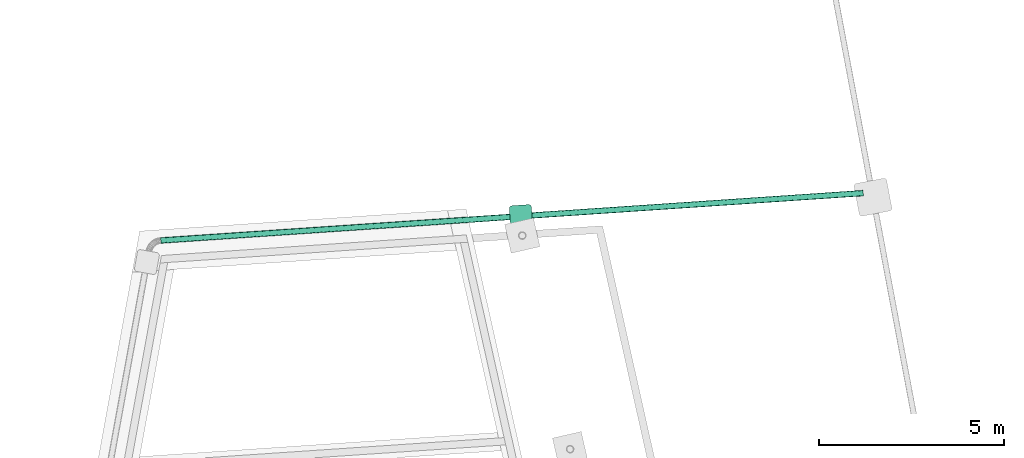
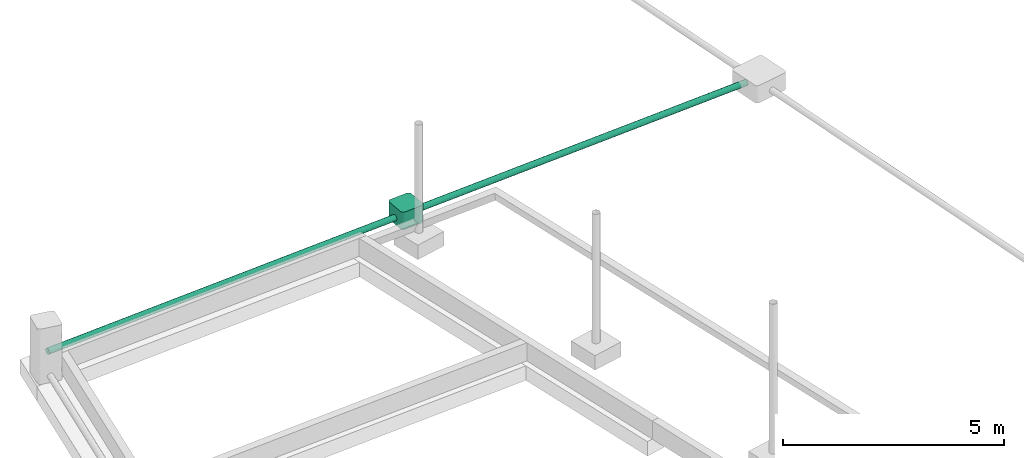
# One storey, part 12 of 17: 2 flow segments, 1 flow controller.
"""IFC2X3 building model written with IfcOpenShell, lengths in centimetres."""

from ifc_helpers import new_model, entity, si_unit, converted_unit, derived_unit, direction, frame, origin, origin_2d_with_axis, place, context, subcontext, project, spatial, circle, extrude, faceted_brep, source, transform, mapped, material, type_object, type_shapes, element, save


model = new_model("IFC2X3")

# Units and contexts
model_context = context("Model", 3, precision=0.001, world=origin(), true_north=direction((6.12303176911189e-17, 1.0)))
body_context = subcontext(model_context, "Body", "Model", "MODEL_VIEW")
ifc_project = project(units=[si_unit("LENGTHUNIT", "METRE", prefix="CENTI"), si_unit("AREAUNIT", "SQUARE_METRE"), si_unit("VOLUMEUNIT", "CUBIC_METRE"), converted_unit("PLANEANGLEUNIT", "DEGREE", entity("IfcRatioMeasure", 0.0174532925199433), si_unit("PLANEANGLEUNIT", "RADIAN"), dimensions=[0, 0, 0, 0, 0, 0, 0]), si_unit("MASSUNIT", "GRAM", prefix="KILO"), derived_unit("MASSDENSITYUNIT", [(si_unit("MASSUNIT", "GRAM", prefix="KILO"), 1), (si_unit("LENGTHUNIT", "METRE"), -3)]), si_unit("TIMEUNIT", "SECOND"), si_unit("FREQUENCYUNIT", "HERTZ"), si_unit("THERMODYNAMICTEMPERATUREUNIT", "DEGREE_CELSIUS"), derived_unit("THERMALTRANSMITTANCEUNIT", [(si_unit("MASSUNIT", "GRAM", prefix="KILO"), 1), (si_unit("THERMODYNAMICTEMPERATUREUNIT", "KELVIN"), -1), (si_unit("TIMEUNIT", "SECOND"), -3)]), derived_unit("VOLUMETRICFLOWRATEUNIT", [(si_unit("LENGTHUNIT", "METRE"), 3), (si_unit("TIMEUNIT", "SECOND"), -1)]), si_unit("ELECTRICCURRENTUNIT", "AMPERE"), si_unit("ELECTRICVOLTAGEUNIT", "VOLT"), si_unit("POWERUNIT", "WATT"), si_unit("FORCEUNIT", "NEWTON", prefix="KILO"), si_unit("ILLUMINANCEUNIT", "LUX"), si_unit("LUMINOUSFLUXUNIT", "LUMEN"), si_unit("LUMINOUSINTENSITYUNIT", "CANDELA"), derived_unit("USERDEFINED", [(si_unit("MASSUNIT", "GRAM", prefix="KILO"), -1), (si_unit("LENGTHUNIT", "METRE"), -2), (si_unit("TIMEUNIT", "SECOND"), 3), (si_unit("LUMINOUSFLUXUNIT", "LUMEN"), 1)]), derived_unit("LINEARVELOCITYUNIT", [(si_unit("LENGTHUNIT", "METRE"), 1), (si_unit("TIMEUNIT", "SECOND"), -1)]), si_unit("PRESSUREUNIT", "PASCAL"), derived_unit("USERDEFINED", [(si_unit("LENGTHUNIT", "METRE"), -2), (si_unit("MASSUNIT", "GRAM", prefix="KILO"), 1), (si_unit("TIMEUNIT", "SECOND"), -2)])], contexts=[model_context])

# Site, building, storey
site_placement = place(None, frame((2611.71187422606, 13650.4058644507, 0.0), z_axis=(0.0, 0.0, 1.0), x_axis=(0.0673222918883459, -0.997731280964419, 0.0)))
site = spatial("IfcSite", under=ifc_project, at=site_placement, Name="Surface", CompositionType="ELEMENT")
building_placement = place(site_placement, origin())
building = spatial("IfcBuilding", under=site, at=building_placement, CompositionType="ELEMENT")
storey_placement = place(building_placement, frame((0.0, 0.0, 86950.0)))
storey = spatial("IfcBuildingStorey", under=building, at=storey_placement, Name="-1 Soubassement", CompositionType="ELEMENT", Elevation=86950.0)

# Flow controller
ifc_material = material(Name="Béton, précoulé")
valve_type = type_object("IfcValveType", Name="Regard EP 600x600", PredefinedType="NOTDEFINED", material=ifc_material)
shared_shape = source(origin(), body_context, "Body", "Brep", [
    faceted_brep([(56.1595272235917, 59.0877304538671, 48.0), (54.2300795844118, 59.8869338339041, 48.0), (52.1595272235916, 60.1595272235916, 48.0), (8.15952722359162, 60.1595272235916, 48.0), (6.08897486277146, 59.8869338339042, 48.0), (4.15952722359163, 59.0877304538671, 48.0), (2.50267297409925, 57.816381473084, 48.0), (1.23132399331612, 56.1595272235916, 48.0), (0.432120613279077, 54.2300795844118, 48.0), (0.159527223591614, 52.1595272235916, 48.0), (0.1595272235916, 8.15952722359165, 48.0), (0.432120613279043, 6.08897486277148, 48.0), (1.23132399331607, 4.15952722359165, 48.0), (2.50267297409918, 2.50267297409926, 48.0), (4.15952722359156, 1.23132399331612, 48.0), (6.08897486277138, 0.43212061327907, 48.0), (8.15952722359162, 0.159527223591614, 48.0), (52.1595272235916, 0.159527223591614, 48.0), (54.2300795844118, 0.43212061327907, 48.0), (56.1595272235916, 1.2313239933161, 48.0), (57.816381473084, 2.50267297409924, 48.0), (59.0877304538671, 4.15952722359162, 48.0), (59.8869338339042, 6.08897486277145, 48.0), (60.1595272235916, 8.15952722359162, 48.0), (60.1595272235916, 52.1595272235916, 48.0), (59.8869338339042, 54.2300795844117, 48.0), (59.0877304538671, 56.1595272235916, 48.0), (57.816381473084, 57.816381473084, 48.0), (2.50267297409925, 57.816381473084, 43.0), (4.15952722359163, 59.0877304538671, 43.0), (6.08897486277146, 59.8869338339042, 43.0), (8.15952722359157, 60.1595272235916, 43.0), (52.1595272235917, 60.1595272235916, 43.0), (54.2300795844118, 59.8869338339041, 43.0), (56.1595272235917, 59.0877304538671, 43.0), (57.816381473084, 57.816381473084, 43.0), (59.0877304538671, 56.1595272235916, 43.0), (59.8869338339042, 54.2300795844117, 43.0), (60.1595272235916, 52.1595272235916, 43.0), (60.1595272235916, 8.15952722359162, 43.0), (59.8869338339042, 6.08897486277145, 43.0), (59.0877304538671, 4.15952722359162, 43.0), (57.816381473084, 2.50267297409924, 43.0), (56.1595272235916, 1.2313239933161, 43.0), (54.2300795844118, 0.43212061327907, 43.0), (52.1595272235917, 0.159527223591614, 43.0), (8.15952722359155, 0.1595272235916, 43.0), (6.08897486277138, 0.43212061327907, 43.0), (4.15952722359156, 1.23132399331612, 43.0), (2.50267297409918, 2.50267297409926, 43.0), (1.23132399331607, 4.15952722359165, 43.0), (0.432120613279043, 6.08897486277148, 43.0), (0.1595272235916, 8.1595272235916, 43.0), (0.159527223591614, 52.1595272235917, 43.0), (0.432120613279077, 54.2300795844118, 43.0), (1.23132399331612, 56.1595272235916, 43.0)], [[[0, 1, 2, 3, 4, 5, 6, 7, 8, 9, 10, 11, 12, 13, 14, 15, 16, 17, 18, 19, 20, 21, 22, 23, 24, 25, 26, 27]], [[28, 29, 30, 31, 32, 33, 34, 35, 36, 37, 38, 39, 40, 41, 42, 43, 44, 45, 46, 47, 48, 49, 50, 51, 52, 53, 54, 55]], [[3, 2, 32, 31]], [[4, 3, 31, 30]], [[5, 4, 30, 29]], [[6, 5, 29, 28]], [[54, 53, 9, 8]], [[7, 6, 28, 55]], [[55, 54, 8, 7]], [[10, 9, 53, 52]], [[11, 10, 52, 51]], [[12, 11, 51, 50]], [[13, 12, 50, 49]], [[47, 46, 16, 15]], [[14, 48, 47, 15]], [[48, 14, 13, 49]], [[17, 16, 46, 45]], [[18, 17, 45, 44]], [[19, 18, 44, 43]], [[20, 19, 43, 42]], [[42, 41, 21, 20]], [[21, 41, 40, 22]], [[23, 22, 40, 39]], [[24, 23, 39, 38]], [[25, 24, 38, 37]], [[26, 25, 37, 36]], [[27, 26, 36, 35]], [[0, 27, 35, 34]], [[0, 34, 33, 1]], [[33, 32, 2, 1]]]),
    faceted_brep([(6.08897486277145, 59.8869338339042, 0.0), (8.15952722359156, 60.1595272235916, 0.0), (52.1595272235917, 60.1595272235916, 0.0), (54.2300795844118, 59.8869338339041, 0.0), (56.1595272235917, 59.0877304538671, 0.0), (57.816381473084, 57.816381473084, 0.0), (59.0877304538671, 56.1595272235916, 0.0), (59.8869338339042, 54.2300795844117, 0.0), (60.1595272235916, 52.1595272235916, 0.0), (60.1595272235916, 8.15952722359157, 0.0), (59.8869338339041, 6.0889748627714, 0.0), (59.0877304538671, 4.15952722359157, 0.0), (57.816381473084, 2.5026729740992, 0.0), (56.1595272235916, 1.23132399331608, 0.0), (54.2300795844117, 0.432120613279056, 0.0), (52.1595272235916, 0.159527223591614, 0.0), (8.15952722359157, 0.159527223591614, 0.0), (6.0889748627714, 0.432120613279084, 0.0), (4.15952722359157, 1.23132399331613, 0.0), (2.5026729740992, 2.50267297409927, 0.0), (1.23132399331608, 4.15952722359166, 0.0), (0.432120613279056, 6.08897486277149, 0.0), (0.159527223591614, 8.15952722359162, 0.0), (0.159527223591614, 52.1595272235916, 0.0), (0.43212061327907, 54.2300795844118, 0.0), (1.23132399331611, 56.1595272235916, 0.0), (2.50267297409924, 57.816381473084, 0.0), (4.15952722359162, 59.0877304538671, 0.0), (52.1595272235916, 60.1595272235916, 5.0), (8.15952722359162, 60.1595272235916, 5.0), (6.08897486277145, 59.8869338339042, 5.0), (4.15952722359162, 59.0877304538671, 5.0), (2.50267297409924, 57.816381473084, 5.0), (1.23132399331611, 56.1595272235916, 5.0), (0.43212061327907, 54.2300795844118, 5.0), (0.159527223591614, 52.1595272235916, 5.0), (0.159527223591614, 8.15952722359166, 5.0), (0.432120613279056, 6.08897486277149, 5.0), (1.23132399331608, 4.15952722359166, 5.0), (2.5026729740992, 2.50267297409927, 5.0), (4.15952722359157, 1.23132399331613, 5.0), (6.0889748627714, 0.432120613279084, 5.0), (8.15952722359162, 0.159527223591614, 5.0), (52.1595272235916, 0.159527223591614, 5.0), (54.2300795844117, 0.432120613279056, 5.0), (56.1595272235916, 1.23132399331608, 5.0), (57.816381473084, 2.5026729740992, 5.0), (59.0877304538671, 4.15952722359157, 5.0), (59.8869338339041, 6.0889748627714, 5.0), (60.1595272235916, 8.15952722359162, 5.0), (60.1595272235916, 52.1595272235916, 5.0), (59.8869338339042, 54.2300795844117, 5.0), (59.0877304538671, 56.1595272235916, 5.0), (57.816381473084, 57.816381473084, 5.0), (56.1595272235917, 59.0877304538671, 5.0), (54.2300795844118, 59.8869338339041, 5.0)], [[[0, 1, 2, 3, 4, 5, 6, 7, 8, 9, 10, 11, 12, 13, 14, 15, 16, 17, 18, 19, 20, 21, 22, 23, 24, 25, 26, 27]], [[28, 29, 30, 31, 32, 33, 34, 35, 36, 37, 38, 39, 40, 41, 42, 43, 44, 45, 46, 47, 48, 49, 50, 51, 52, 53, 54, 55]], [[29, 28, 2, 1]], [[36, 35, 23, 22]], [[43, 42, 16, 15]], [[50, 49, 9, 8]], [[30, 29, 1, 0]], [[31, 30, 0, 27]], [[32, 31, 27, 26]], [[24, 23, 35, 34]], [[33, 32, 26, 25]], [[25, 24, 34, 33]], [[37, 36, 22, 21]], [[38, 37, 21, 20]], [[39, 38, 20, 19]], [[17, 16, 42, 41]], [[40, 18, 17, 41]], [[18, 40, 39, 19]], [[44, 43, 15, 14]], [[45, 44, 14, 13]], [[46, 45, 13, 12]], [[12, 11, 47, 46]], [[47, 11, 10, 48]], [[49, 48, 10, 9]], [[51, 50, 8, 7]], [[52, 51, 7, 6]], [[53, 52, 6, 5]], [[54, 53, 5, 4]], [[54, 4, 3, 55]], [[3, 2, 28, 55]]]),
    faceted_brep([(56.1595272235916, 1.23132399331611, 43.0), (53.6595272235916, 5.56145101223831, 43.0), (54.2300795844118, 0.432120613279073, 43.0), (54.2808475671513, 6.03820688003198, 43.0), (57.816381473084, 2.50267297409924, 43.0), (59.0877304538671, 4.15952722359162, 43.0), (54.7576034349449, 6.65952722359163, 43.0), (59.8869338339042, 6.08897486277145, 43.0), (55.0573047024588, 7.38307008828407, 43.0), (60.1595272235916, 8.15952722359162, 43.0), (55.1595272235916, 8.15952722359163, 43.0), (55.1595272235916, 52.1595272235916, 43.0), (60.1595272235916, 52.1595272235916, 43.0), (55.0573047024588, 52.9359843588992, 43.0), (59.8869338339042, 54.2300795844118, 43.0), (54.7576034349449, 53.6595272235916, 43.0), (59.0877304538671, 56.1595272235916, 43.0), (54.2808475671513, 54.2808475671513, 43.0), (57.816381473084, 57.816381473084, 43.0), (56.1595272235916, 59.0877304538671, 43.0), (53.6595272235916, 54.7576034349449, 43.0), (54.2300795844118, 59.8869338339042, 43.0), (52.9359843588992, 55.0573047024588, 43.0), (52.1595272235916, 60.1595272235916, 43.0), (52.1595272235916, 55.1595272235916, 43.0), (8.15952722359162, 55.1595272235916, 43.0), (8.15952722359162, 60.1595272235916, 43.0), (7.38307008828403, 55.0573047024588, 43.0), (6.08897486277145, 59.8869338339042, 43.0), (6.6595272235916, 54.7576034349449, 43.0), (4.15952722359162, 59.0877304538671, 43.0), (6.03820688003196, 54.2808475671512, 43.0), (2.50267297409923, 57.816381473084, 43.0), (1.2313239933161, 56.1595272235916, 43.0), (5.56145101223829, 53.6595272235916, 43.0), (0.43212061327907, 54.2300795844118, 43.0), (5.26174974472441, 52.9359843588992, 43.0), (0.159527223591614, 52.1595272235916, 43.0), (5.15952722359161, 52.1595272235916, 43.0), (0.159527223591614, 8.15952722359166, 43.0), (5.15952722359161, 8.1595272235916, 43.0), (5.26174974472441, 7.38307008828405, 43.0), (0.432120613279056, 6.08897486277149, 43.0), (5.5614510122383, 6.65952722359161, 43.0), (1.23132399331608, 4.15952722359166, 43.0), (6.03820688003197, 6.03820688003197, 43.0), (2.5026729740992, 2.50267297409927, 43.0), (4.15952722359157, 1.23132399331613, 43.0), (6.65952722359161, 5.56145101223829, 43.0), (6.0889748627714, 0.43212061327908, 43.0), (7.38307008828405, 5.26174974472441, 43.0), (8.15952722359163, 0.15952722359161, 43.0), (8.15952722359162, 5.15952722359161, 43.0), (52.1595272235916, 0.15952722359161, 43.0), (52.9359843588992, 5.26174974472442, 43.0), (52.1595272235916, 5.15952722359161, 43.0), (56.1595272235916, 59.0877304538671, 5.0), (53.6595272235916, 54.7576034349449, 5.0), (54.2300795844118, 59.8869338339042, 5.0), (54.2808475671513, 54.2808475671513, 5.0), (57.816381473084, 57.816381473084, 5.0), (59.0877304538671, 56.1595272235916, 5.0), (54.7576034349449, 53.6595272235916, 5.0), (59.8869338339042, 54.2300795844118, 5.0), (55.0573047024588, 52.9359843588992, 5.0), (60.1595272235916, 52.1595272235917, 5.0), (55.1595272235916, 52.1595272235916, 5.0), (55.1595272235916, 8.15952722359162, 5.0), (60.1595272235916, 8.15952722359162, 5.0), (55.0573047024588, 7.38307008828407, 5.0), (59.8869338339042, 6.08897486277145, 5.0), (54.7576034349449, 6.65952722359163, 5.0), (59.0877304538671, 4.15952722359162, 5.0), (54.2808475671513, 6.03820688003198, 5.0), (57.816381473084, 2.50267297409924, 5.0), (56.1595272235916, 1.23132399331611, 5.0), (53.6595272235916, 5.56145101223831, 5.0), (54.2300795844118, 0.432120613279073, 5.0), (52.9359843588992, 5.26174974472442, 5.0), (52.1595272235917, 0.15952722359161, 5.0), (52.1595272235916, 5.15952722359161, 5.0), (8.1595272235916, 5.15952722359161, 5.0), (8.15952722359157, 0.15952722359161, 5.0), (7.38307008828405, 5.26174974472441, 5.0), (6.0889748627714, 0.43212061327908, 5.0), (6.65952722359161, 5.56145101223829, 5.0), (4.15952722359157, 1.23132399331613, 5.0), (6.03820688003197, 6.03820688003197, 5.0), (2.5026729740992, 2.50267297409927, 5.0), (1.23132399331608, 4.15952722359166, 5.0), (5.5614510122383, 6.65952722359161, 5.0), (0.432120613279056, 6.08897486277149, 5.0), (5.26174974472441, 7.38307008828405, 5.0), (0.159527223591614, 8.15952722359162, 5.0), (5.15952722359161, 8.15952722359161, 5.0), (0.159527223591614, 52.1595272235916, 5.0), (5.15952722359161, 52.1595272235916, 5.0), (5.26174974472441, 52.9359843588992, 5.0), (0.43212061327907, 54.2300795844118, 5.0), (5.56145101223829, 53.6595272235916, 5.0), (1.2313239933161, 56.1595272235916, 5.0), (6.03820688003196, 54.2808475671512, 5.0), (2.50267297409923, 57.816381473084, 5.0), (4.15952722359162, 59.0877304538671, 5.0), (6.6595272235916, 54.7576034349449, 5.0), (6.08897486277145, 59.8869338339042, 5.0), (7.38307008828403, 55.0573047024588, 5.0), (8.15952722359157, 60.1595272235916, 5.0), (8.1595272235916, 55.1595272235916, 5.0), (52.1595272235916, 60.1595272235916, 5.0), (52.9359843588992, 55.0573047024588, 5.0), (52.1595272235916, 55.1595272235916, 5.0), (34.1595272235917, 60.1595272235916, 24.9282032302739), (32.2300795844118, 60.1595272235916, 25.7274066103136), (35.8163814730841, 60.1595272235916, 23.6568542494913), (30.1595272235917, 60.1595272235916, 26.0), (37.0877304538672, 60.1595272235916, 22.0), (37.8869338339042, 60.1595272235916, 20.0705523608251), (38.1595272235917, 60.1595272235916, 18.0), (37.8869338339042, 60.1595272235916, 15.9294476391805), (37.0877304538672, 60.1595272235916, 14.0), (35.8163814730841, 60.1595272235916, 12.3431457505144), (34.1595272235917, 60.1595272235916, 11.0717967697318), (32.2300795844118, 60.1595272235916, 10.2725933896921), (30.1595272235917, 60.1595272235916, 10.0), (22.4321206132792, 60.1595272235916, 20.0705523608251), (28.0889748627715, 60.1595272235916, 10.2725933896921), (26.1595272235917, 60.1595272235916, 11.0717967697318), (24.5026729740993, 60.1595272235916, 12.3431457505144), (23.2313239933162, 60.1595272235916, 14.0), (22.4321206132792, 60.1595272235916, 15.9294476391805), (22.1595272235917, 60.1595272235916, 18.0), (23.2313239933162, 60.1595272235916, 22.0), (28.0889748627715, 60.1595272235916, 25.7274066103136), (26.1595272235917, 60.1595272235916, 24.9282032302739), (24.5026729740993, 60.1595272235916, 23.6568542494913), (26.15952722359, 0.15952722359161, 24.9282032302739), (28.0889748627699, 0.15952722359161, 25.7274066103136), (24.5026729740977, 0.15952722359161, 23.6568542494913), (30.15952722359, 0.15952722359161, 26.0), (23.2313239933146, 0.15952722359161, 22.0), (22.4321206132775, 0.15952722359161, 20.0705523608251), (22.1595272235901, 0.15952722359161, 18.0), (22.4321206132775, 0.15952722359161, 15.9294476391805), (23.2313239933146, 0.15952722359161, 14.0), (24.5026729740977, 0.15952722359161, 12.3431457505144), (26.1595272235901, 0.15952722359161, 11.0717967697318), (28.0889748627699, 0.15952722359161, 10.2725933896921), (30.1595272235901, 0.15952722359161, 10.0), (37.8869338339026, 0.15952722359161, 20.0705523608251), (32.2300795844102, 0.15952722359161, 10.2725933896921), (34.1595272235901, 0.15952722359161, 11.0717967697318), (35.8163814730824, 0.15952722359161, 12.3431457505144), (37.0877304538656, 0.15952722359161, 14.0), (37.8869338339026, 0.15952722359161, 15.9294476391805), (38.1595272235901, 0.15952722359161, 18.0), (37.0877304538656, 0.15952722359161, 22.0), (32.2300795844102, 0.15952722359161, 25.7274066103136), (34.15952722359, 0.15952722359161, 24.9282032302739), (35.8163814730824, 0.15952722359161, 23.6568542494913), (22.1595272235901, 5.15952722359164, 18.0), (22.4321206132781, 5.15952722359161, 15.9294476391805), (22.1595272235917, 55.1595272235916, 18.0), (22.4321206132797, 55.1595272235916, 15.9294476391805), (23.2313239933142, 5.15952722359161, 14.0), (23.2313239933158, 55.1595272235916, 14.0), (26.1595272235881, 5.15952722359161, 11.0717967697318), (24.5026729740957, 5.15952722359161, 12.3431457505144), (24.5026729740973, 55.1595272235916, 12.3431457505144), (26.1595272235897, 55.1595272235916, 11.0717967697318), (28.0889748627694, 5.15952722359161, 10.2725933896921), (28.088974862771, 55.1595272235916, 10.2725933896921), (30.15952722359, 5.15952722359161, 10.0), (30.1595272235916, 55.1595272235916, 10.0), (32.2300795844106, 5.15952722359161, 10.2725933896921), (32.2300795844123, 55.1595272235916, 10.2725933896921), (37.8869338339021, 5.15952722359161, 15.9294476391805), (37.087730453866, 5.15952722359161, 14.0), (37.0877304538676, 55.1595272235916, 14.0), (37.8869338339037, 55.1595272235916, 15.9294476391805), (35.8163814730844, 5.15952722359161, 12.3431457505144), (35.816381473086, 55.1595272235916, 12.3431457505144), (38.1595272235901, 5.15952722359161, 18.0), (38.1595272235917, 55.1595272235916, 18.0), (34.1595272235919, 5.15952722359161, 11.0717967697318), (34.1595272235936, 55.1595272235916, 11.0717967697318), (37.8869338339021, 5.15952722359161, 20.0705523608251), (37.8869338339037, 55.1595272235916, 20.0705523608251), (37.087730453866, 5.15952722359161, 22.0), (37.0877304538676, 55.1595272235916, 22.0), (34.159527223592, 5.15952722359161, 24.9282032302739), (35.8163814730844, 5.15952722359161, 23.6568542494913), (35.816381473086, 55.1595272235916, 23.6568542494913), (34.1595272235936, 55.1595272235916, 24.9282032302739), (32.2300795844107, 5.15952722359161, 25.7274066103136), (32.2300795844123, 55.1595272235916, 25.7274066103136), (30.15952722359, 5.15952722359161, 26.0), (30.1595272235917, 55.1595272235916, 26.0), (26.1595272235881, 5.15952722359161, 24.9282032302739), (24.5026729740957, 5.15952722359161, 23.6568542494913), (26.1595272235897, 55.1595272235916, 24.9282032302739), (24.5026729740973, 55.1595272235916, 23.6568542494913), (22.4321206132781, 5.15952722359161, 20.0705523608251), (23.2313239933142, 5.15952722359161, 22.0), (23.2313239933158, 55.1595272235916, 22.0), (22.4321206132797, 55.1595272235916, 20.0705523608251), (28.0889748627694, 5.15952722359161, 25.7274066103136), (28.088974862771, 55.1595272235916, 25.7274066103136), (8.15952722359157, 55.1595272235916, 23.8751470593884), (52.1595272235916, 55.1595272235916, 24.1248529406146), (53.3075775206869, 54.9311658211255, 24.0), (52.7444457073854, 55.1019531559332, 21.2463431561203), (54.9311658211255, 53.3075775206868, 24.0), (55.1018157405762, 52.7451365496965, 21.2342534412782), (53.9858115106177, 54.5395872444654, 24.0), (54.5395872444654, 53.9858115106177, 24.0), (55.1595272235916, 52.1595272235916, 23.8751470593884), (55.1595272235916, 8.15952722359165, 24.1248529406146), (54.5395872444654, 6.33324293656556, 24.0), (53.3075775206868, 5.38788862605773, 24.0), (52.7451365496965, 5.21723870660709, 21.2342534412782), (54.9311658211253, 7.01147692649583, 24.0), (55.1018157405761, 7.57391789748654, 26.7657465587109), (53.9858115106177, 5.77946720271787, 24.0), (52.1595272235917, 5.15952722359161, 23.8751470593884), (8.15952722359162, 5.15952722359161, 24.1248529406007), (7.57460873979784, 5.21710129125, 21.2463431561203), (7.01147692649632, 5.38788862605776, 24.0), (5.38788862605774, 7.01147692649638, 24.0), (5.21723870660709, 7.57391789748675, 21.2342534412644), (6.33324293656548, 5.77946720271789, 24.0), (5.77946720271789, 6.33324293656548, 24.0), (5.15952722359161, 8.15952722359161, 23.8751470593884), (5.15952722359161, 52.1595272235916, 24.1248529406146), (5.21710129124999, 52.7444457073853, 21.2463431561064), (5.38788862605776, 53.3075775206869, 24.0), (7.01147692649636, 54.9311658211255, 24.0), (7.57391789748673, 55.1018157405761, 21.2342534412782), (5.77946720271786, 53.9858115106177, 24.0), (6.33324293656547, 54.5395872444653, 24.0)], [[[0, 1, 2]], [[1, 0, 3]], [[4, 3, 0]], [[4, 5, 3]], [[5, 6, 3]], [[5, 7, 6]], [[8, 6, 7]], [[8, 7, 9]], [[8, 9, 10]], [[10, 9, 11]], [[12, 11, 9]], [[13, 11, 12]], [[13, 12, 14]], [[15, 13, 14]], [[16, 15, 14]], [[17, 15, 16]], [[18, 17, 16]], [[18, 19, 17]], [[19, 20, 17]], [[19, 21, 20]], [[20, 21, 22]], [[21, 23, 22]], [[24, 22, 23]], [[24, 23, 25]], [[26, 25, 23]], [[27, 25, 26]], [[27, 26, 28]], [[27, 28, 29]], [[28, 30, 29]], [[31, 29, 30]], [[31, 30, 32]], [[31, 32, 33]], [[33, 34, 31]], [[35, 34, 33]], [[35, 36, 34]], [[36, 35, 37]], [[37, 38, 36]], [[38, 37, 39]], [[39, 40, 38]], [[40, 39, 41]], [[42, 41, 39]], [[41, 42, 43]], [[43, 42, 44]], [[43, 44, 45]], [[45, 44, 46]], [[45, 46, 47]], [[45, 47, 48]], [[47, 49, 48]], [[50, 48, 49]], [[51, 50, 49]], [[51, 52, 50]], [[52, 51, 53]], [[53, 2, 54]], [[54, 55, 53]], [[53, 55, 52]], [[54, 2, 1]], [[56, 57, 58]], [[57, 56, 59]], [[60, 59, 56]], [[60, 61, 59]], [[61, 62, 59]], [[61, 63, 62]], [[64, 62, 63]], [[64, 63, 65]], [[64, 65, 66]], [[66, 65, 67]], [[68, 67, 65]], [[69, 67, 68]], [[69, 68, 70]], [[71, 69, 70]], [[72, 71, 70]], [[73, 71, 72]], [[74, 73, 72]], [[74, 75, 73]], [[75, 76, 73]], [[75, 77, 76]], [[76, 77, 78]], [[77, 79, 78]], [[80, 78, 79]], [[80, 79, 81]], [[82, 81, 79]], [[83, 81, 82]], [[83, 82, 84]], [[83, 84, 85]], [[84, 86, 85]], [[87, 85, 86]], [[87, 86, 88]], [[87, 88, 89]], [[89, 90, 87]], [[91, 90, 89]], [[91, 92, 90]], [[92, 91, 93]], [[93, 94, 92]], [[94, 93, 95]], [[95, 96, 94]], [[96, 95, 97]], [[98, 97, 95]], [[97, 98, 99]], [[99, 98, 100]], [[99, 100, 101]], [[101, 100, 102]], [[101, 102, 103]], [[101, 103, 104]], [[103, 105, 104]], [[106, 104, 105]], [[107, 106, 105]], [[107, 108, 106]], [[108, 107, 109]], [[109, 58, 110]], [[110, 111, 109]], [[109, 111, 108]], [[110, 58, 57]], [[12, 9, 68, 65]], [[23, 112, 113]], [[112, 23, 114]], [[23, 113, 115]], [[116, 114, 23]], [[117, 116, 23]], [[117, 23, 109]], [[115, 26, 23]], [[109, 118, 117]], [[119, 118, 109]], [[120, 119, 109]], [[121, 120, 109]], [[109, 122, 121]], [[122, 109, 123]], [[124, 123, 109]], [[109, 107, 124]], [[26, 125, 107]], [[126, 124, 107]], [[127, 126, 107]], [[107, 128, 127]], [[128, 107, 129]], [[130, 129, 107]], [[131, 130, 107]], [[131, 107, 125]], [[132, 125, 26]], [[26, 115, 133]], [[26, 133, 134]], [[134, 135, 26]], [[135, 132, 26]], [[39, 37, 95, 93]], [[51, 136, 137]], [[136, 51, 138]], [[51, 137, 139]], [[140, 138, 51]], [[141, 140, 51]], [[141, 51, 82]], [[139, 53, 51]], [[82, 142, 141]], [[143, 142, 82]], [[144, 143, 82]], [[145, 144, 82]], [[82, 146, 145]], [[146, 82, 147]], [[148, 147, 82]], [[82, 79, 148]], [[53, 149, 79]], [[150, 148, 79]], [[151, 150, 79]], [[79, 152, 151]], [[152, 79, 153]], [[154, 153, 79]], [[155, 154, 79]], [[155, 79, 149]], [[156, 149, 53]], [[53, 139, 157]], [[53, 157, 158]], [[158, 159, 53]], [[159, 156, 53]], [[160, 142, 143, 161]], [[131, 162, 163, 130]], [[161, 143, 144, 164]], [[130, 163, 165, 129]], [[166, 167, 145, 146]], [[127, 128, 168, 169]], [[145, 167, 164, 144]], [[168, 128, 129, 165]], [[170, 166, 146, 147]], [[126, 127, 169, 171]], [[170, 147, 148, 172]], [[126, 171, 173, 124]], [[150, 174, 172, 148]], [[175, 123, 124, 173]], [[176, 177, 153, 154]], [[119, 120, 178, 179]], [[180, 152, 153, 177]], [[121, 181, 178, 120]], [[176, 154, 155, 182]], [[119, 179, 183, 118]], [[151, 184, 174, 150]], [[185, 122, 123, 175]], [[151, 152, 180, 184]], [[185, 181, 121, 122]], [[182, 155, 149, 186]], [[118, 183, 187, 117]], [[186, 149, 156, 188]], [[117, 187, 189, 116]], [[190, 191, 159, 158]], [[112, 114, 192, 193]], [[159, 191, 188, 156]], [[192, 114, 116, 189]], [[194, 190, 158, 157]], [[113, 112, 193, 195]], [[194, 157, 139, 196]], [[113, 195, 197, 115]], [[198, 136, 138, 199]], [[134, 200, 201, 135]], [[202, 203, 140, 141]], [[125, 132, 204, 205]], [[203, 199, 138, 140]], [[132, 135, 201, 204]], [[160, 202, 141, 142]], [[131, 125, 205, 162]], [[206, 137, 136, 198]], [[133, 207, 200, 134]], [[206, 196, 139, 137]], [[133, 115, 197, 207]], [[14, 63, 61, 16]], [[16, 61, 60, 18]], [[12, 65, 63, 14]], [[19, 56, 58, 21]], [[21, 58, 109, 23]], [[18, 60, 56, 19]], [[28, 105, 103, 30]], [[30, 103, 102, 32]], [[107, 105, 28, 26]], [[33, 100, 98, 35]], [[35, 98, 95, 37]], [[32, 102, 100, 33]], [[42, 91, 89, 44]], [[44, 89, 88, 46]], [[93, 91, 42, 39]], [[47, 86, 84, 49]], [[49, 84, 82, 51]], [[46, 88, 86, 47]], [[2, 77, 75, 0]], [[0, 75, 74, 4]], [[79, 77, 2, 53]], [[5, 72, 70, 7]], [[7, 70, 68, 9]], [[4, 74, 72, 5]], [[25, 200, 207]], [[200, 25, 201]], [[25, 207, 197]], [[204, 201, 25]], [[205, 204, 25]], [[205, 25, 208]], [[197, 24, 25]], [[205, 208, 108]], [[108, 162, 205]], [[163, 162, 108]], [[165, 163, 108]], [[168, 165, 108]], [[108, 169, 168]], [[169, 108, 171]], [[173, 171, 108]], [[108, 111, 173]], [[175, 173, 111]], [[185, 175, 111]], [[111, 181, 185]], [[181, 111, 178]], [[179, 178, 111]], [[183, 179, 111]], [[183, 111, 187]], [[187, 111, 209]], [[187, 209, 24]], [[24, 197, 195]], [[24, 195, 193]], [[193, 192, 24]], [[189, 187, 24]], [[192, 189, 24]], [[210, 22, 211]], [[212, 213, 13]], [[24, 209, 111, 211]], [[20, 22, 210]], [[24, 211, 22]], [[20, 210, 214]], [[214, 57, 59]], [[211, 110, 210]], [[57, 210, 110]], [[17, 214, 215]], [[216, 11, 213, 66]], [[215, 15, 17]], [[213, 11, 13]], [[64, 212, 62]], [[212, 13, 15]], [[57, 214, 210]], [[215, 62, 212]], [[62, 215, 59]], [[212, 64, 213]], [[64, 66, 213]], [[20, 214, 17]], [[215, 214, 59]], [[110, 211, 111]], [[15, 215, 212]], [[11, 216, 66, 67, 217, 10]], [[6, 218, 3]], [[219, 220, 54]], [[221, 6, 8]], [[221, 8, 222]], [[1, 223, 219]], [[8, 10, 222]], [[6, 221, 218]], [[218, 71, 73]], [[222, 10, 217, 67]], [[71, 221, 69]], [[3, 218, 223]], [[224, 55, 220, 80]], [[223, 1, 3]], [[221, 222, 69]], [[220, 55, 54]], [[219, 54, 1]], [[222, 67, 69]], [[223, 76, 219]], [[219, 78, 220]], [[78, 80, 220]], [[71, 218, 221]], [[78, 219, 76]], [[223, 218, 73]], [[76, 223, 73]], [[55, 190, 194]], [[190, 55, 191]], [[55, 194, 196]], [[188, 191, 55]], [[186, 188, 55]], [[186, 55, 224]], [[196, 52, 55]], [[186, 224, 80]], [[80, 182, 186]], [[176, 182, 80]], [[177, 176, 80]], [[180, 177, 80]], [[80, 184, 180]], [[184, 80, 174]], [[172, 174, 80]], [[80, 81, 172]], [[170, 172, 81]], [[166, 170, 81]], [[81, 167, 166]], [[167, 81, 164]], [[161, 164, 81]], [[160, 161, 81]], [[160, 81, 202]], [[202, 81, 225]], [[202, 225, 52]], [[52, 196, 206]], [[52, 206, 198]], [[198, 199, 52]], [[203, 202, 52]], [[199, 203, 52]], [[226, 227, 50]], [[228, 229, 41]], [[52, 225, 81, 226]], [[227, 48, 50]], [[52, 226, 50]], [[85, 227, 83]], [[230, 85, 87]], [[226, 83, 227]], [[48, 227, 230]], [[45, 230, 231]], [[232, 40, 229, 94]], [[231, 43, 45]], [[229, 40, 41]], [[92, 228, 90]], [[228, 41, 43]], [[48, 230, 45]], [[231, 90, 228]], [[90, 231, 87]], [[228, 92, 229]], [[92, 94, 229]], [[43, 231, 228]], [[231, 230, 87]], [[83, 226, 81]], [[85, 230, 227]], [[40, 232, 94, 96, 233, 38]], [[234, 235, 36]], [[236, 237, 27]], [[38, 233, 96, 234]], [[235, 34, 36]], [[38, 234, 36]], [[99, 235, 97]], [[238, 99, 101]], [[234, 97, 235]], [[34, 235, 238]], [[31, 238, 239]], [[208, 25, 237, 108]], [[239, 29, 31]], [[237, 25, 27]], [[106, 236, 104]], [[236, 27, 29]], [[34, 238, 31]], [[239, 104, 236]], [[104, 239, 101]], [[236, 106, 237]], [[106, 108, 237]], [[29, 239, 236]], [[239, 238, 101]], [[97, 234, 96]], [[99, 238, 235]]]),
])
type_shapes(valve_type, [shared_shape])
flow_controller_placement = place(storey_placement, frame((1934.64949263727, 1205.62285459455, 0.0), z_axis=(0.0, 0.0, 1.0), x_axis=(-1.0, 0.0, 0.0)))
element("IfcFlowController", 1, at=flow_controller_placement, inside=storey, type_object=valve_type, material=ifc_material, Name="Regard Eau pluviale 2:Regard EP 600x600", ObjectType="Regard Eau pluviale 2:Regard EP 600x600", context=body_context, shape_type="MappedRepresentation", body=[
    mapped(shared_shape, transform((0.0, 0.0, 0.0), scale=1.0)),
])

# Flow segments
pipe_segment_type = type_object("IfcPipeSegmentType", Name="Canalisation:Canalisation EP", PredefinedType="NOTDEFINED")
flow_segment_1_placement = place(storey_placement, origin())
element("IfcFlowSegment", 2, at=flow_segment_1_placement, inside=storey, type_object=pipe_segment_type, Name="Canalisation:Canalisation EP", ObjectType="Canalisation:Canalisation EP", context=body_context, shape_type="SweptSolid", body=[
    extrude(circle(Radius=8.0, at=origin_2d_with_axis()), frame((1904.48996541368, 197.81211967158, 18.0), z_axis=(0.0, 1.0, 0.0), x_axis=(-1.0, 0.0, 0.0)), (0.0, 0.0, 1.0), 947.651207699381),
])
flow_segment_2_placement = place(storey_placement, origin())
element("IfcFlowSegment", 3, at=flow_segment_2_placement, inside=storey, type_object=pipe_segment_type, Name="Canalisation:Canalisation EP", ObjectType="Canalisation:Canalisation EP", context=body_context, shape_type="SweptSolid", body=[
    extrude(circle(Radius=8.0, at=origin_2d_with_axis()), frame((1904.48996541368, 1205.46332737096, 18.0), z_axis=(0.0, 1.0, 0.0), x_axis=(1.0, 0.0, 0.0)), (0.0, 0.0, 1.0), 899.0),
])

save(model, "model.ifc")
